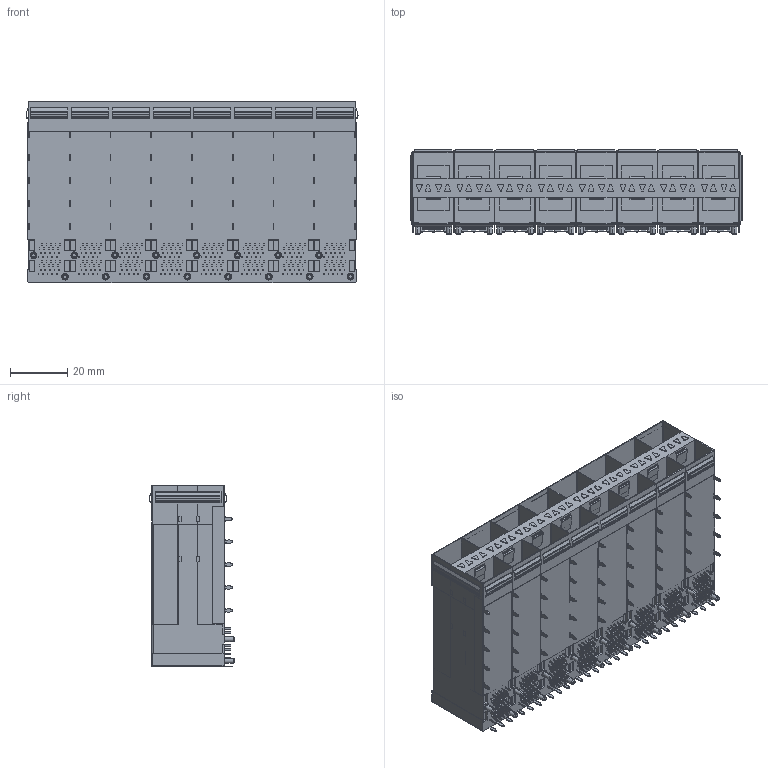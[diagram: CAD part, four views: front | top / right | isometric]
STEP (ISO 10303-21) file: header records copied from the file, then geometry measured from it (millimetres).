
FILE_DESCRIPTION (( 'STEP AP203' ), '1' );
FILE_NAME ('22801_SFP+ 2X8 囀俋絳嫖翐.STEP', '2024-06-05T00:38:45', ( '' ), ( '' ), 'SwSTEP 2.0', 'SolidWorks 2018', '' );
FILE_SCHEMA (( 'CONFIG_CONTROL_DESIGN' ));
Length unit declared in the file: millimetre
Products named in the file (1): 22801_SFP+ 2X8 囀俋絳嫖翐
Bounding box: 116.06 x 29.78 x 63.5 mm (x, y, z)
Volume: 93265.9 mm3; surface area: 65527 mm2
Topology: 1 solids, 1 shells, 4293 faces, 11835 edges, 8018 vertices
Faces by surface type: plane 3159, cylinder 1068, cone 64, sphere 2
Entity records: 136580 total; most frequent: CARTESIAN_POINT 24145, ORIENTED_EDGE 23666, DIRECTION 22625, EDGE_CURVE 11833, VECTOR 9629, LINE 9629, VERTEX_POINT 8018, AXIS2_PLACEMENT_3D 6498
